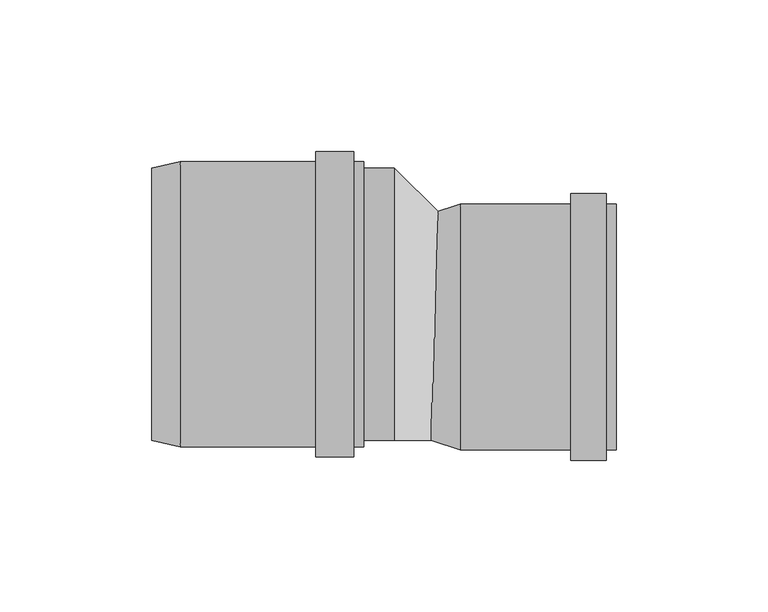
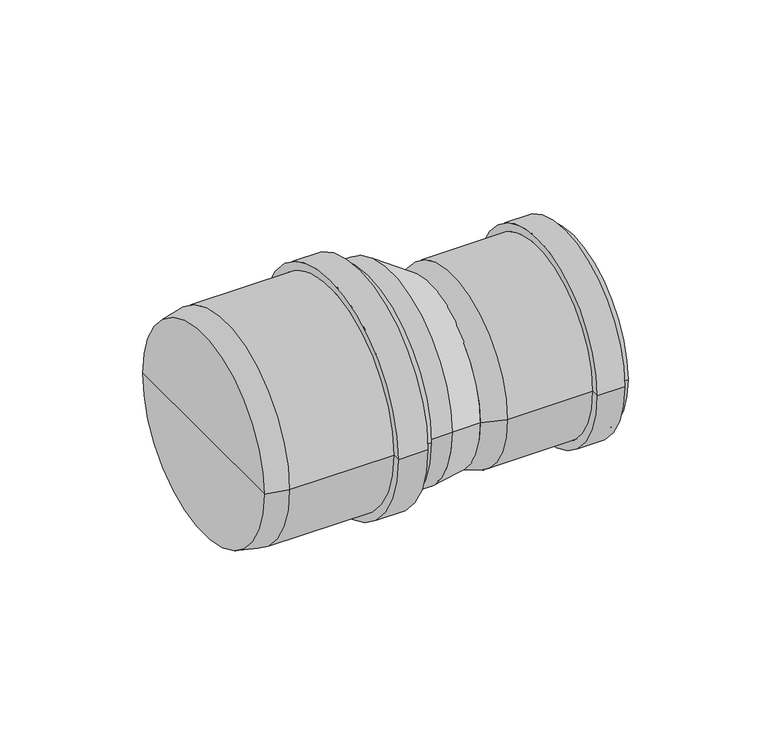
"""IFC4 building model written with IfcOpenShell, lengths in millimetres: pipe fitting geometry, pf_HTR_red-nes-dlouha : pf_HTR_red-nes-dlouha."""

from ifc_helpers import new_model, si_unit, point, frame, origin, origin_2d, place, context, project, spatial, polyline, circle_curve, trimmed, segment, composite_curve, outline, extrude, source, transform, mapped, element, save
from ifc_brep_helpers import plane_surface, cylinder_surface, revolved_surface, spline_surface, advanced_brep


def pipe_fitting_6385da66(model_context):
    return source(origin(), model_context, "Body", "SolidModel", [
        advanced_brep(
        [(-80.0, -45.0, 0.0), (-80.0, 45.0, 0.0), (-70.5, 47.0, 0.0), (-70.5, -47.0, 0.0), (-80.0, 0.0, 0.0), (-10.0, -47.0, 0.0), (-10.0, 47.0, 0.0), (-10.0, 0.0, 0.0), (-13.4, -47.0, 0.0), (-13.4, 47.0, 0.0), (-13.4, -50.4, 0.0), (-13.4, 50.4, 0.0), (-25.9, -50.4, 0.0), (-25.9, 50.4, 0.0), (-25.9, -47.0, 0.0), (-25.9, 47.0, 0.0)],
        [
            (0, 1, circle_curve(frame((-80.0, 0.0, 0.0), z_axis=(1.0, 0.0, 0.0), x_axis=(0.0, 1.0, 0.0)), 45.0)),
            (1, 2),
            (2, 3, circle_curve(frame((-70.5, 0.0, 0.0), z_axis=(-1.0, 0.0, 0.0), x_axis=(0.0, 1.0, 0.0)), 47.0)),
            (3, 0),
            (1, 0, circle_curve(frame((-80.0, 0.0, 0.0), z_axis=(1.0, 0.0, 0.0), x_axis=(0.0, 1.0, 0.0)), 45.0)),
            (3, 2, circle_curve(frame((-70.5, 0.0, 0.0), z_axis=(-1.0, 0.0, 0.0), x_axis=(0.0, 1.0, 0.0)), 47.0)),
            (4, 1),
            (0, 4),
            (5, 6, circle_curve(frame((-10.0, 0.0, 0.0), z_axis=(1.0, 0.0, 0.0), x_axis=(0.0, 1.0, 0.0)), 47.0)),
            (6, 7),
            (7, 5),
            (6, 5, circle_curve(frame((-10.0, 0.0, 0.0), z_axis=(1.0, 0.0, 0.0), x_axis=(0.0, 1.0, 0.0)), 47.0)),
            (8, 9, circle_curve(frame((-13.4, 0.0, 0.0), z_axis=(1.0, 0.0, 0.0), x_axis=(0.0, 1.0, 0.0)), 47.0)),
            (9, 6),
            (5, 8),
            (9, 8, circle_curve(frame((-13.4, 0.0, 0.0), z_axis=(1.0, 0.0, 0.0), x_axis=(0.0, 1.0, 0.0)), 47.0)),
            (10, 11, circle_curve(frame((-13.4, 0.0, 0.0), z_axis=(1.0, 0.0, 0.0), x_axis=(0.0, 1.0, 0.0)), 50.4)),
            (11, 9),
            (8, 10),
            (11, 10, circle_curve(frame((-13.4, 0.0, 0.0), z_axis=(1.0, 0.0, 0.0), x_axis=(0.0, 1.0, 0.0)), 50.4)),
            (12, 13, circle_curve(frame((-25.9, 0.0, 0.0), z_axis=(1.0, 0.0, 0.0), x_axis=(0.0, 1.0, 0.0)), 50.4)),
            (13, 11),
            (10, 12),
            (13, 12, circle_curve(frame((-25.9, 0.0, 0.0), z_axis=(1.0, 0.0, 0.0), x_axis=(0.0, 1.0, 0.0)), 50.4)),
            (14, 15, circle_curve(frame((-25.9, 0.0, 0.0), z_axis=(1.0, 0.0, 0.0), x_axis=(0.0, 1.0, 0.0)), 47.0)),
            (15, 13),
            (12, 14),
            (15, 14, circle_curve(frame((-25.9, 0.0, 0.0), z_axis=(1.0, 0.0, 0.0), x_axis=(0.0, 1.0, 0.0)), 47.0)),
            (2, 15),
            (14, 3),
        ],
        [
            revolved_surface(polyline([(-70.5, 47.0, 0.0), (-80.0, 45.0, 0.0)]), (-80.0, 0.0, 0.0), (-1.0, 0.0, 0.0)),
            plane_surface(frame((-80.0, 0.0, 0.0), z_axis=(-1.0, 0.0, 0.0), x_axis=(0.0, 1.0, 0.0))),
            plane_surface(frame((-10.0, 0.0, 0.0), z_axis=(1.0, 0.0, 0.0), x_axis=(0.0, 1.0, 0.0))),
            cylinder_surface(frame((-80.0, 0.0, 0.0), z_axis=(-1.0, 0.0, 0.0), x_axis=(0.0, 1.0, 0.0)), 47.0),
            plane_surface(frame((-13.4, 0.0, 0.0), z_axis=(1.0, 0.0, 0.0), x_axis=(0.0, 1.0, 0.0))),
            cylinder_surface(frame((-80.0, 0.0, 0.0), z_axis=(-1.0, 0.0, 0.0), x_axis=(0.0, 1.0, 0.0)), 50.4),
            plane_surface(frame((-25.9, 0.0, 0.0), z_axis=(-1.0, 0.0, 0.0), x_axis=(0.0, 1.0, 0.0))),
        ],
        [
            (0, [[1, 2, 3, 4]]),
            (0, [[5, -4, 6, -2]]),
            (1, [[7, -1, 8]]),
            (1, [[-8, -5, -7]]),
            (2, [[9, 10, 11]]),
            (2, [[12, -11, -10]]),
            (3, [[13, 14, -9, 15]]),
            (3, [[16, -15, -12, -14]]),
            (4, [[17, 18, -13, 19]]),
            (4, [[20, -19, -16, -18]]),
            (5, [[21, 22, -17, 23]]),
            (5, [[24, -23, -20, -22]]),
            (6, [[25, 26, -21, 27]]),
            (6, [[28, -27, -24, -26]]),
            (3, [[-3, 29, -25, 30]]),
            (3, [[-6, -30, -28, -29]]),
        ],
    ),
        advanced_brep(
        [(12.25, -45.0, 0.0), (12.25, 30.0, 0.0), (21.75, 33.1, 0.0), (21.75, -48.1, 0.0), (12.25, -7.5, 0.0), (73.25, -48.1, 0.0), (73.25, 33.1, 0.0), (73.25, -7.5, 0.0), (69.85, -48.1, 0.0), (69.85, 33.1, 0.0), (69.85, -51.5, 0.0), (69.85, 36.5, 0.0), (58.25, -51.5, 0.0), (58.25, 36.5, 0.0), (58.25, -48.1, 0.0), (58.25, 33.1, 0.0)],
        [
            (0, 1, circle_curve(frame((12.25, -7.5, 0.0), z_axis=(1.0, 0.0, 0.0), x_axis=(0.0, 1.0, 0.0)), 37.5)),
            (1, 2),
            (2, 3, circle_curve(frame((21.75, -7.5, 0.0), z_axis=(-1.0, 0.0, 0.0), x_axis=(0.0, 1.0, 0.0)), 40.6)),
            (3, 0),
            (1, 0, circle_curve(frame((12.25, -7.5, 0.0), z_axis=(1.0, 0.0, 0.0), x_axis=(0.0, 1.0, 0.0)), 37.5)),
            (3, 2, circle_curve(frame((21.75, -7.5, 0.0), z_axis=(-1.0, 0.0, 0.0), x_axis=(0.0, 1.0, 0.0)), 40.6)),
            (4, 1),
            (0, 4),
            (5, 6, circle_curve(frame((73.25, -7.5, 0.0), z_axis=(1.0, 0.0, 0.0), x_axis=(0.0, 1.0, 0.0)), 40.6)),
            (6, 7),
            (7, 5),
            (6, 5, circle_curve(frame((73.25, -7.5, 0.0), z_axis=(1.0, 0.0, 0.0), x_axis=(0.0, 1.0, 0.0)), 40.6)),
            (8, 9, circle_curve(frame((69.85, -7.5, 0.0), z_axis=(1.0, 0.0, 0.0), x_axis=(0.0, 1.0, 0.0)), 40.6)),
            (9, 6),
            (5, 8),
            (9, 8, circle_curve(frame((69.85, -7.5, 0.0), z_axis=(1.0, 0.0, 0.0), x_axis=(0.0, 1.0, 0.0)), 40.6)),
            (10, 11, circle_curve(frame((69.85, -7.5, 0.0), z_axis=(1.0, 0.0, 0.0), x_axis=(0.0, 1.0, 0.0)), 44.0)),
            (11, 9),
            (8, 10),
            (11, 10, circle_curve(frame((69.85, -7.5, 0.0), z_axis=(1.0, 0.0, 0.0), x_axis=(0.0, 1.0, 0.0)), 44.0)),
            (12, 13, circle_curve(frame((58.25, -7.5, 0.0), z_axis=(1.0, 0.0, 0.0), x_axis=(0.0, 1.0, 0.0)), 44.0)),
            (13, 11),
            (10, 12),
            (13, 12, circle_curve(frame((58.25, -7.5, 0.0), z_axis=(1.0, 0.0, 0.0), x_axis=(0.0, 1.0, 0.0)), 44.0)),
            (14, 15, circle_curve(frame((58.25, -7.5, 0.0), z_axis=(1.0, 0.0, 0.0), x_axis=(0.0, 1.0, 0.0)), 40.6)),
            (15, 13),
            (12, 14),
            (15, 14, circle_curve(frame((58.25, -7.5, 0.0), z_axis=(1.0, 0.0, 0.0), x_axis=(0.0, 1.0, 0.0)), 40.6)),
            (2, 15),
            (14, 3),
        ],
        [
            revolved_surface(polyline([(21.75, 33.1, 0.0), (12.25, 30.0, 0.0)]), (12.25, -7.5, 0.0), (-1.0, 0.0, 0.0)),
            plane_surface(frame((12.25, -7.5, 0.0), z_axis=(-1.0, 0.0, 0.0), x_axis=(0.0, 1.0, 0.0))),
            plane_surface(frame((73.25, -7.5, 0.0), z_axis=(1.0, 0.0, 0.0), x_axis=(0.0, 1.0, 0.0))),
            cylinder_surface(frame((12.25, -7.5, 0.0), z_axis=(-1.0, 0.0, 0.0), x_axis=(0.0, 1.0, 0.0)), 40.6),
            plane_surface(frame((69.85, -7.5, 0.0), z_axis=(1.0, 0.0, 0.0), x_axis=(0.0, 1.0, 0.0))),
            cylinder_surface(frame((12.25, -7.5, 0.0), z_axis=(-1.0, 0.0, 0.0), x_axis=(0.0, 1.0, 0.0)), 44.0),
            plane_surface(frame((58.25, -7.5, 0.0), z_axis=(-1.0, 0.0, 0.0), x_axis=(0.0, 1.0, 0.0))),
        ],
        [
            (0, [[1, 2, 3, 4]]),
            (0, [[5, -4, 6, -2]]),
            (1, [[7, -1, 8]]),
            (1, [[-8, -5, -7]]),
            (2, [[9, 10, 11]]),
            (2, [[12, -11, -10]]),
            (3, [[13, 14, -9, 15]]),
            (3, [[16, -15, -12, -14]]),
            (4, [[17, 18, -13, 19]]),
            (4, [[20, -19, -16, -18]]),
            (5, [[21, 22, -17, 23]]),
            (5, [[24, -23, -20, -22]]),
            (6, [[25, 26, -21, 27]]),
            (6, [[28, -27, -24, -26]]),
            (3, [[-3, 29, -25, 30]]),
            (3, [[-6, -30, -28, -29]]),
        ],
    ),
        extrude(outline(composite_curve([segment(trimmed(circle_curve(origin_2d(), 45.0), [point((-45.0, 0.0))], [point((45.0, 0.0))], False, "CARTESIAN"), True, "CONTINUOUS"), segment(trimmed(circle_curve(origin_2d(), 45.0), [point((45.0, 0.0))], [point((-45.0, 0.0))], False, "CARTESIAN"), True, "CONTINUOUS")], self_intersect=False)), frame((-10.0, 0.0, 0.0), z_axis=(1.0, 0.0, 0.0), x_axis=(0.0, 1.0, 0.0)), (0.0, 0.0, 1.0), 10.0),
        advanced_brep(
        [(15.25, -45.0, 0.0), (15.25, 30.0, 0.0), (0.0, -45.0, 0.0), (0.0, 45.0, 0.0)],
        [
            (0, 1, circle_curve(frame((15.25, -7.5, 0.0), z_axis=(1.0, 0.0, 0.0), x_axis=(0.0, 1.0, 0.0)), 37.5)),
            (1, 0, circle_curve(frame((15.25, -7.5, 0.0), z_axis=(1.0, 0.0, 0.0), x_axis=(0.0, 1.0, 0.0)), 37.5)),
            (2, 3, circle_curve(frame((0.0, 0.0, 0.0), z_axis=(-1.0, 0.0, 0.0), x_axis=(0.0, 1.0, 0.0)), 45.0)),
            (3, 2, circle_curve(frame((0.0, 0.0, 0.0), z_axis=(-1.0, 0.0, 0.0), x_axis=(0.0, 1.0, 0.0)), 45.0)),
            (3, 1),
            (0, 2),
        ],
        [
            plane_surface(frame((15.25, -7.5, 0.0), z_axis=(1.0, 0.0, 0.0), x_axis=(0.0, 0.0, -1.0))),
            plane_surface(frame((0.0, 0.0, 0.0), z_axis=(-1.0, 0.0, 0.0), x_axis=(0.0, 0.0, -1.0))),
            spline_surface(2, 1, [[(0.0, -45.0, 0.0), (15.25, -45.0, 0.0)], [(0.0, -45.0, -45.0), (15.25, -45.0, -37.5)], [(0.0, 0.0, -45.0), (15.25, -7.5, -37.5)], [(0.0, 45.0, -45.0), (15.25, 30.0, -37.5)], [(0.0, 45.0, 0.0), (15.25, 30.0, 0.0)]], [3, 2, 3], [2, 2], [0.0, 1.0, 2.0], [0.0, 1.0], weights=[[1.0, 1.0], [0.7071067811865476, 0.7071067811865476], [1.0, 1.0], [0.7071067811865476, 0.7071067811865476], [1.0, 1.0]]),
            spline_surface(2, 1, [[(0.0, 45.0, 0.0), (15.25, 30.0, 0.0)], [(0.0, 45.0, 45.0), (15.25, 30.0, 37.5)], [(0.0, 0.0, 45.0), (15.25, -7.5, 37.5)], [(0.0, -45.0, 45.0), (15.25, -45.0, 37.5)], [(0.0, -45.0, 0.0), (15.25, -45.0, 0.0)]], [3, 2, 3], [2, 2], [0.0, 1.0, 2.0], [0.0, 1.0], weights=[[1.0, 1.0], [0.7071067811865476, 0.7071067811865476], [1.0, 1.0], [0.7071067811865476, 0.7071067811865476], [1.0, 1.0]]),
        ],
        [
            (0, [[1, 2]]),
            (1, [[3, 4]]),
            (2, [[-4, 5, -1, 6]]),
            (3, [[-3, -6, -2, -5]]),
        ],
    ),
    ])


if __name__ == "__main__":
    model = new_model("IFC4")
    model_context = context("Model", 3, world=origin())
    ifc_project = project(units=[si_unit("LENGTHUNIT", "METRE", prefix="MILLI")], contexts=[model_context])
    site = spatial("IfcSite", under=ifc_project)
    building = spatial("IfcBuilding", under=site)
    placement = place(None, origin())
    pipe_fitting_shape = pipe_fitting_6385da66(model_context)
    element("IfcPipeFitting", 1, ObjectType="pf_HTR_red-nes-dlouha : pf_HTR_red-nes-dlouha", at=placement, inside=building, context=model_context, shape_type="MappedRepresentation", body=[
        mapped(pipe_fitting_shape, transform((0.0, 0.0, 0.0), x_axis=(1.0, 0.0, 0.0), y_axis=(0.0, 1.0, 0.0), z_axis=(0.0, 0.0, 1.0))),
    ])
    save(model, "model.ifc")
